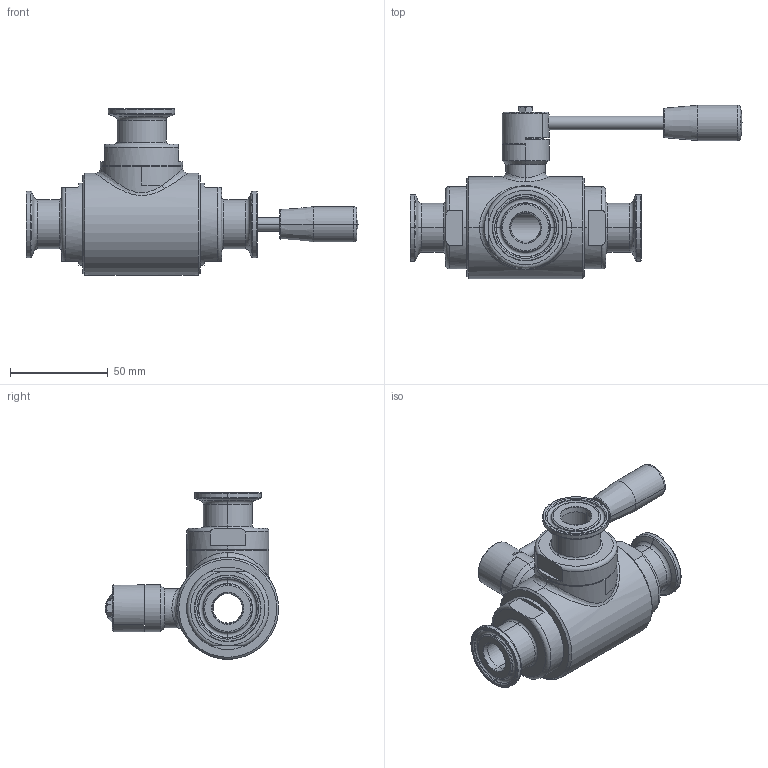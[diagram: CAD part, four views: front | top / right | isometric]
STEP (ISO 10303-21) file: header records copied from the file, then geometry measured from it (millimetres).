
FILE_DESCRIPTION((''),'2;1');
FILE_NAME('PARTE_VUOTA','2022-03-24T13:51:32',('alfio.taboni'),('CDM Tecnoconsulting'),'CREO PARAMETRIC BY PTC INC, 2020053','CREO PARAMETRIC BY PTC INC, 2020053','');
FILE_SCHEMA(('CONFIG_CONTROL_DESIGN','SHAPE_APPEARANCE_LAYERS_GROUPS'));
Length unit declared in the file: millimetre
Products named in the file (1): PARTE_VUOTA
Bounding box: 169.5 x 88.5 x 85 mm (x, y, z)
Volume: 195001.8 mm3; surface area: 59547.2 mm2
Topology: 2 solids, 19 shells, 910 faces, 2296 edges, 1448 vertices
Faces by surface type: plane 327, cylinder 173, cone 160, extrusion 149, torus 90, bspline 6, sphere 5
Entity records: 36978 total; most frequent: CARTESIAN_POINT 8425, ORIENTED_EDGE 4552, DIRECTION 4224, PRESENTATION_STYLE_ASSIGNMENT 2292, STYLED_ITEM 2278, CURVE_STYLE 2276, EDGE_CURVE 2276, AXIS2_PLACEMENT_3D 1530
